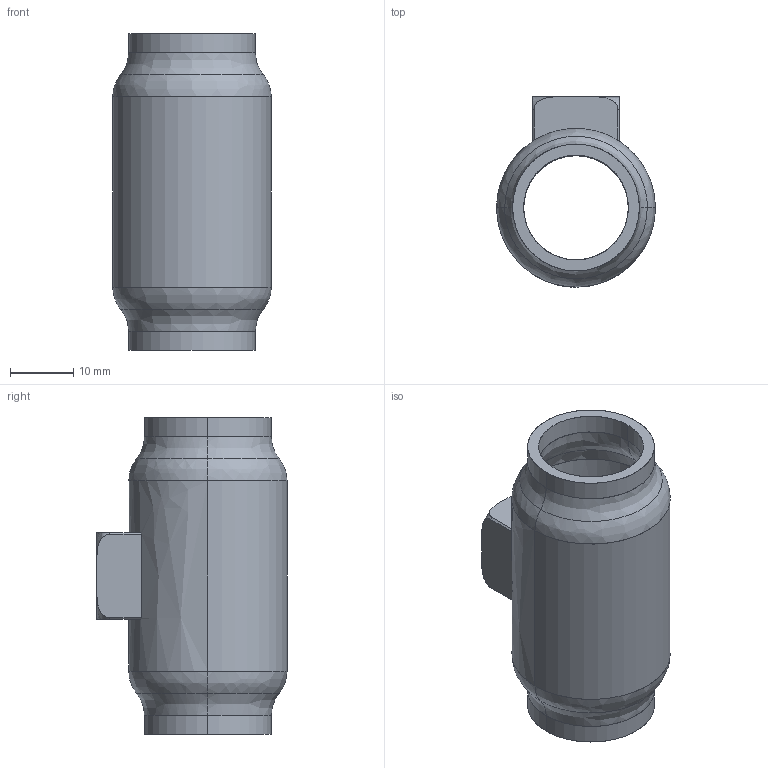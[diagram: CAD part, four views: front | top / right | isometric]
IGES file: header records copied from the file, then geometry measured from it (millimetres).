
Start section: SolidWorks IGES file using analytic representation for surfaces
Global section: file name: C:\HEMSIDA\cad\SLDPRT_2010\wn600\\wn600-16.igs; native system: SolidWorks 2010; preprocessor: SolidWorks 2010; author: Administrator; date: 101214.114926; units: millimetre
Bounding box: 25 x 30 x 50 mm (x, y, z)
Surface area: 9678.5 mm2 (no closed solid volume)
Topology: 0 solids, 0 shells, 56 faces, 828 edges, 828 vertices
Faces by surface type: bspline 29, revolution 27
